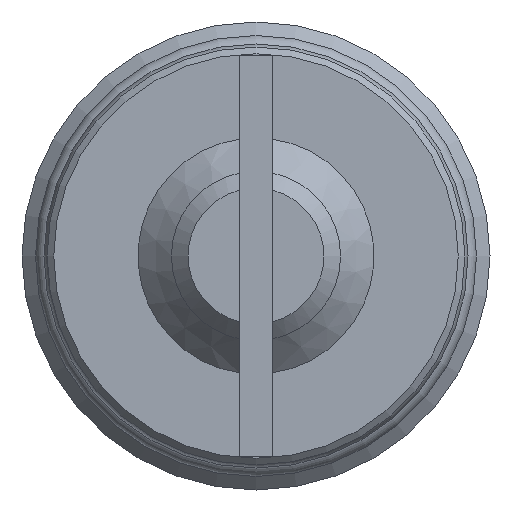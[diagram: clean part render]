
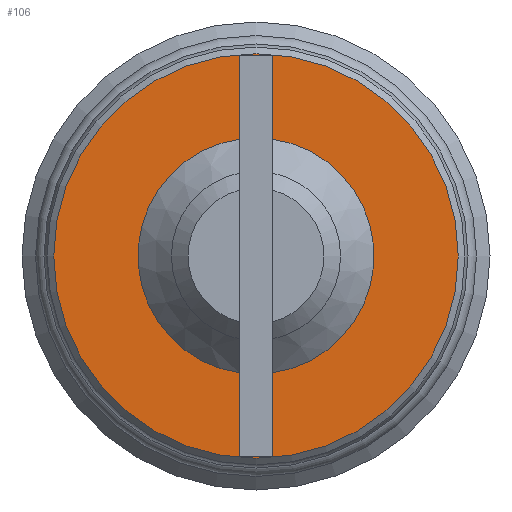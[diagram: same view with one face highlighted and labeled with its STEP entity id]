
A CAD part, left-side view. The second image highlights one B-rep face of the part: STEP entity #106.
In plain terms, the highlighted planar face has unit normal (-1, 0, 0).
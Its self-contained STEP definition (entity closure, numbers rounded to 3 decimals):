
#106 = ADVANCED_FACE( '', ( #239, #240 ), #241, .F. );
#239 = FACE_OUTER_BOUND( '', #408, .T. );
#240 = FACE_BOUND( '', #409, .T. );
#241 = PLANE( '', #410 );
#408 = EDGE_LOOP( '', ( #671 ) );
#409 = EDGE_LOOP( '', ( #672, #673, #674, #675, #676, #677, #678, #679 ) );
#410 = AXIS2_PLACEMENT_3D( '', #680, #681, #682 );
#671 = ORIENTED_EDGE( '', *, *, #1006, .F. );
#672 = ORIENTED_EDGE( '', *, *, #932, .T. );
#673 = ORIENTED_EDGE( '', *, *, #957, .T. );
#674 = ORIENTED_EDGE( '', *, *, #988, .T. );
#675 = ORIENTED_EDGE( '', *, *, #993, .T. );
#676 = ORIENTED_EDGE( '', *, *, #1007, .T. );
#677 = ORIENTED_EDGE( '', *, *, #995, .T. );
#678 = ORIENTED_EDGE( '', *, *, #971, .T. );
#679 = ORIENTED_EDGE( '', *, *, #953, .T. );
#680 = CARTESIAN_POINT( '', ( 0., 0., 0. ) );
#681 = DIRECTION( '', ( 1., 0., 0. ) );
#682 = DIRECTION( '', ( 0., 0., -1. ) );
#932 = EDGE_CURVE( '', #1097, #1098, #1099, .T. );
#953 = EDGE_CURVE( '', #1132, #1097, #1133, .T. );
#957 = EDGE_CURVE( '', #1098, #1138, #1140, .T. );
#971 = EDGE_CURVE( '', #1162, #1132, #1163, .T. );
#988 = EDGE_CURVE( '', #1138, #1188, #1189, .T. );
#993 = EDGE_CURVE( '', #1188, #1194, #1196, .T. );
#995 = EDGE_CURVE( '', #1198, #1162, #1199, .T. );
#1006 = EDGE_CURVE( '', #1214, #1214, #1215, .T. );
#1007 = EDGE_CURVE( '', #1194, #1198, #1216, .T. );
#1097 = VERTEX_POINT( '', #1333 );
#1098 = VERTEX_POINT( '', #1334 );
#1099 = CIRCLE( '', #1335, 3.53 );
#1132 = VERTEX_POINT( '', #1382 );
#1133 = LINE( '', #1383, #1384 );
#1138 = VERTEX_POINT( '', #1391 );
#1140 = LINE( '', #1394, #1395 );
#1162 = VERTEX_POINT( '', #1430 );
#1163 = LINE( '', #1431, #1432 );
#1188 = VERTEX_POINT( '', #1466 );
#1189 = LINE( '', #1467, #1468 );
#1194 = VERTEX_POINT( '', #1475 );
#1196 = LINE( '', #1480, #1481 );
#1198 = VERTEX_POINT( '', #1484 );
#1199 = LINE( '', #1485, #1486 );
#1214 = VERTEX_POINT( '', #1515 );
#1215 = CIRCLE( '', #1516, 6.05 );
#1216 = CIRCLE( '', #1517, 3.53 );
#1333 = CARTESIAN_POINT( '', ( 0., -0.5, 3.494 ) );
#1334 = CARTESIAN_POINT( '', ( 0., -0.5, -3.494 ) );
#1335 = AXIS2_PLACEMENT_3D( '', #1649, #1650, #1651 );
#1382 = CARTESIAN_POINT( '', ( 0., -0.5, 6. ) );
#1383 = CARTESIAN_POINT( '', ( 0., -0.5, 6. ) );
#1384 = VECTOR( '', #1675, 1000. );
#1391 = CARTESIAN_POINT( '', ( 0., -0.5, -6. ) );
#1394 = CARTESIAN_POINT( '', ( 0., -0.5, 6. ) );
#1395 = VECTOR( '', #1679, 1000. );
#1430 = CARTESIAN_POINT( '', ( 0., 0.5, 6. ) );
#1431 = CARTESIAN_POINT( '', ( 0., 0.5, 6. ) );
#1432 = VECTOR( '', #1690, 1000. );
#1466 = CARTESIAN_POINT( '', ( 0., 0.5, -6. ) );
#1467 = CARTESIAN_POINT( '', ( 0., -0.5, -6. ) );
#1468 = VECTOR( '', #1706, 1000. );
#1475 = CARTESIAN_POINT( '', ( 0., 0.5, -3.494 ) );
#1480 = CARTESIAN_POINT( '', ( 0., 0.5, -6. ) );
#1481 = VECTOR( '', #1709, 1000. );
#1484 = CARTESIAN_POINT( '', ( 0., 0.5, 3.494 ) );
#1485 = CARTESIAN_POINT( '', ( 0., 0.5, -6. ) );
#1486 = VECTOR( '', #1711, 1000. );
#1515 = CARTESIAN_POINT( '', ( 0., 0., -6.05 ) );
#1516 = AXIS2_PLACEMENT_3D( '', #1717, #1718, #1719 );
#1517 = AXIS2_PLACEMENT_3D( '', #1720, #1721, #1722 );
#1649 = CARTESIAN_POINT( '', ( 0., 0., 0. ) );
#1650 = DIRECTION( '', ( 1., 0., 0. ) );
#1651 = DIRECTION( '', ( 0., 0., -1. ) );
#1675 = DIRECTION( '', ( 0., 0., -1. ) );
#1679 = DIRECTION( '', ( 0., 0., -1. ) );
#1690 = DIRECTION( '', ( 0., -1., 0. ) );
#1706 = DIRECTION( '', ( 0., 1., 0. ) );
#1709 = DIRECTION( '', ( 0., 0., 1. ) );
#1711 = DIRECTION( '', ( 0., 0., 1. ) );
#1717 = CARTESIAN_POINT( '', ( 0., 0., 0. ) );
#1718 = DIRECTION( '', ( 1., 0., 0. ) );
#1719 = DIRECTION( '', ( 0., 0., -1. ) );
#1720 = CARTESIAN_POINT( '', ( 0., 0., 0. ) );
#1721 = DIRECTION( '', ( 1., 0., 0. ) );
#1722 = DIRECTION( '', ( 0., 0., -1. ) );
